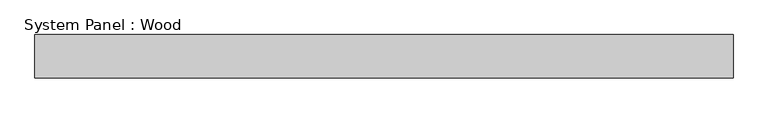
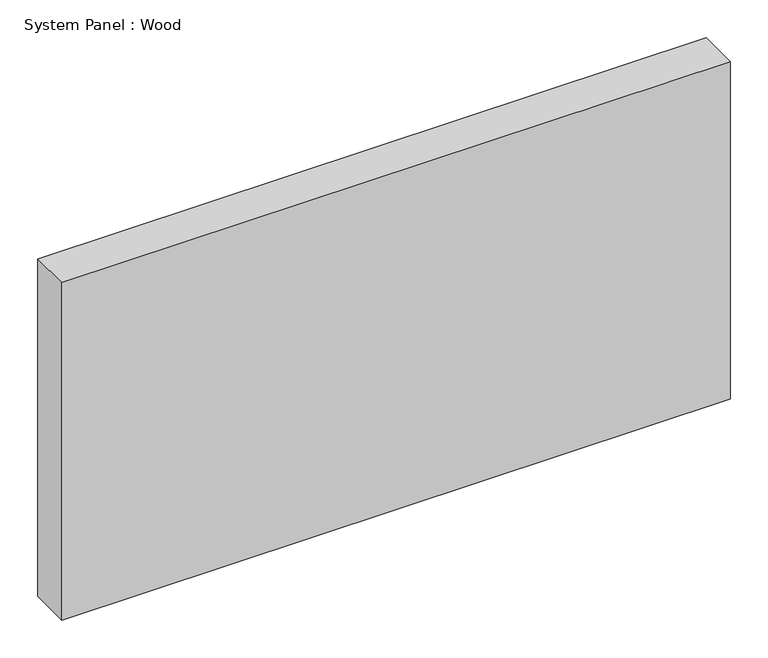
"""IFC4 building model written with IfcOpenShell, lengths in millimetres: plate geometry, System Panel : Wood."""

from ifc_helpers import new_model, si_unit, origin, origin_with_axes, place, context, project, spatial, polyline, outline, extrude, source, transform, mapped, element, save


def system_panel_wood_6bb835ee(model_context):
    return source(origin(), model_context, "Body", "SweptSolid", [
        extrude(outline(polyline([(511.4925, -44.45), (-511.4925, -44.45), (-511.4925, 19.05), (511.4925, 19.05), (511.4925, -44.45)])), origin_with_axes(), (0.0, 0.0, 1.0), 546.1),
    ])


if __name__ == "__main__":
    model = new_model("IFC4")
    model_context = context("Model", 3, world=origin())
    ifc_project = project(units=[si_unit("LENGTHUNIT", "METRE", prefix="MILLI")], contexts=[model_context])
    site = spatial("IfcSite", under=ifc_project)
    building = spatial("IfcBuilding", under=site)
    placement = place(None, origin())
    system_panel_wood_shape = system_panel_wood_6bb835ee(model_context)
    element("IfcPlate", 1, ObjectType="System Panel : Wood", at=placement, inside=building, context=model_context, shape_type="MappedRepresentation", body=[
        mapped(system_panel_wood_shape, transform((0.0, 0.0, 0.0), x_axis=(1.0, 0.0, 0.0), y_axis=(0.0, 1.0, 0.0), z_axis=(0.0, 0.0, 1.0))),
    ])
    save(model, "model.ifc")
